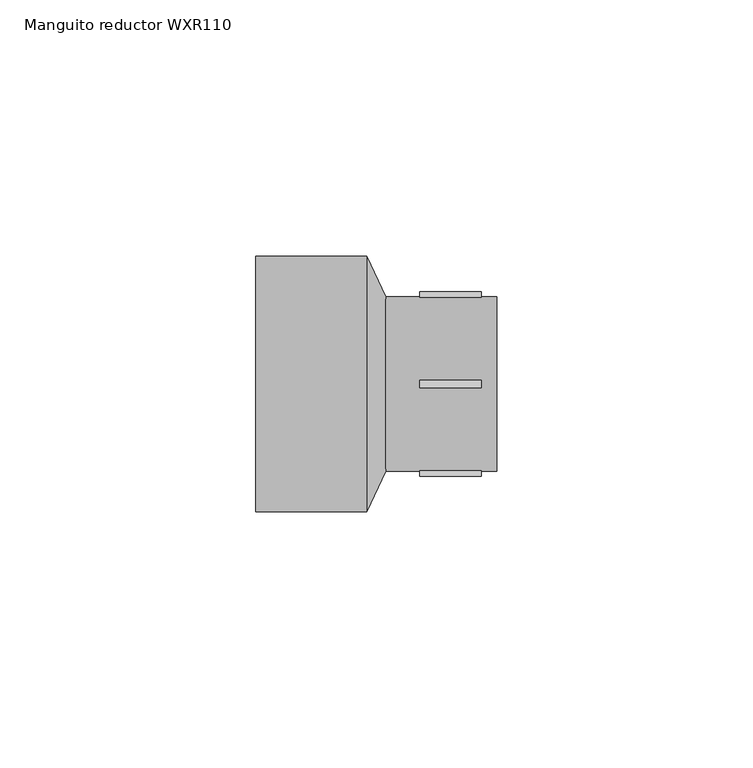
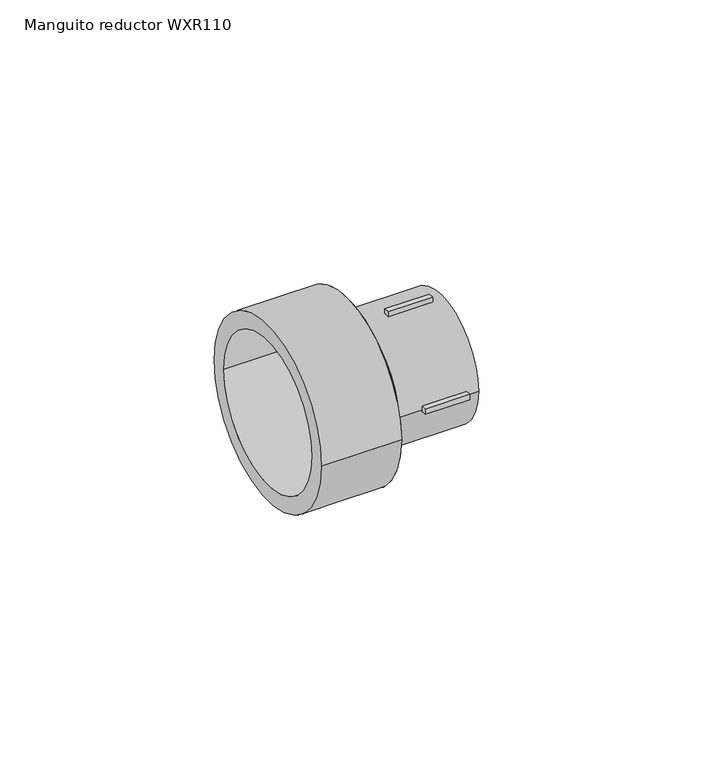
"""IFC4 building model written with IfcOpenShell, lengths in millimetres: pipe fitting geometry, EGB_VASEN_ PPR_Manguito reductor WXR110 : Manguito reductor WXR110."""

from ifc_helpers import new_model, si_unit, point, frame, origin, origin_2d, place, context, project, spatial, polyline, circle_curve, trimmed, segment, composite_curve, outline, extrude, source, transform, mapped, element, save
from ifc_brep_helpers import plane_surface, revolved_surface, advanced_brep


def manguito_reductor_wxr110_cb51794c(model_context):
    return source(origin(), model_context, "Body", "SolidModel", [
        extrude(outline(polyline([(8.5, -0.75), (8.5, 0.75), (20.5, 0.75), (20.5, -0.75), (8.5, -0.75)])), frame((0.0, 0.0, 16.0), z_axis=(0.0, 0.0, 1.0), x_axis=(1.0, 0.0, 0.0)), (0.0, 0.0, 1.0), 2.0),
        extrude(outline(polyline([(8.5, -0.75), (8.5, 0.75), (20.5, 0.75), (20.5, -0.75), (8.5, -0.75)])), frame((0.0, 0.0, -18.0), z_axis=(0.0, 0.0, 1.0), x_axis=(1.0, 0.0, 0.0)), (0.0, 0.0, 1.0), 2.0),
        extrude(outline(polyline([(8.5, 16.0), (8.5, 18.0), (20.5, 18.0), (20.5, 16.0), (8.5, 16.0)])), frame((0.0, 0.0, -0.75), z_axis=(0.0, 0.0, 1.0), x_axis=(1.0, 0.0, 0.0)), (0.0, 0.0, 1.0), 1.5),
        extrude(outline(polyline([(8.5, -18.0), (8.5, -16.0), (20.5, -16.0), (20.5, -18.0), (8.5, -18.0)])), frame((0.0, 0.0, -0.75), z_axis=(0.0, 0.0, 1.0), x_axis=(1.0, 0.0, 0.0)), (0.0, 0.0, 1.0), 1.5),
        extrude(outline(composite_curve([segment(trimmed(circle_curve(origin_2d(), 17.0), [point((-17.0, 0.0))], [point((17.0, 0.0))], False, "CARTESIAN"), True, "CONTINUOUS"), segment(trimmed(circle_curve(origin_2d(), 17.0), [point((17.0, 0.0))], [point((-17.0, 0.0))], False, "CARTESIAN"), True, "CONTINUOUS")], self_intersect=False), holes=[composite_curve([segment(trimmed(circle_curve(origin_2d(), 12.5), [point((-12.5, 0.0))], [point((12.5, 0.0))], True, "CARTESIAN"), True, "CONTINUOUS"), segment(trimmed(circle_curve(origin_2d(), 12.5), [point((12.5, 0.0))], [point((-12.5, 0.0))], True, "CARTESIAN"), True, "CONTINUOUS")], self_intersect=False)]), frame((1.88, 0.0, 0.0), z_axis=(1.0, 0.0, 0.0), x_axis=(0.0, 1.0, 0.0)), (0.0, 0.0, 1.0), 21.62),
        extrude(outline(composite_curve([segment(trimmed(circle_curve(origin_2d(), 25.0), [point((-25.0, 0.0))], [point((25.0, 0.0))], False, "CARTESIAN"), True, "CONTINUOUS"), segment(trimmed(circle_curve(origin_2d(), 25.0), [point((25.0, 0.0))], [point((-25.0, 0.0))], False, "CARTESIAN"), True, "CONTINUOUS")], self_intersect=False), holes=[composite_curve([segment(trimmed(circle_curve(origin_2d(), 20.5), [point((-20.5, 0.0))], [point((20.5, 0.0))], True, "CARTESIAN"), True, "CONTINUOUS"), segment(trimmed(circle_curve(origin_2d(), 20.5), [point((20.5, 0.0))], [point((-20.5, 0.0))], True, "CARTESIAN"), True, "CONTINUOUS")], self_intersect=False)]), frame((-23.5, 0.0, 0.0), z_axis=(1.0, 0.0, 0.0), x_axis=(0.0, 1.0, 0.0)), (0.0, 0.0, 1.0), 21.62),
        advanced_brep(
        [(1.88, -17.0, 0.0), (1.88, 17.0, 0.0), (-1.88, -25.0, 0.0), (-1.88, 25.0, 0.0)],
        [
            (0, 1, circle_curve(frame((1.88, 0.0, 0.0), z_axis=(1.0, 0.0, 0.0), x_axis=(0.0, -1.0, 0.0)), 17.0)),
            (1, 0, circle_curve(frame((1.88, 0.0, 0.0), z_axis=(1.0, 0.0, 0.0), x_axis=(0.0, 1.0, 0.0)), 17.0)),
            (2, 3, circle_curve(frame((-1.88, 0.0, 0.0), z_axis=(-1.0, 0.0, 0.0), x_axis=(0.0, 1.0, 0.0)), 25.0)),
            (3, 2, circle_curve(frame((-1.88, 0.0, 0.0), z_axis=(-1.0, 0.0, 0.0), x_axis=(0.0, -1.0, 0.0)), 25.0)),
            (3, 1),
            (0, 2),
        ],
        [
            plane_surface(frame((1.88, 0.0, 0.0), z_axis=(1.0, 0.0, 0.0), x_axis=(0.0, 0.0, -1.0))),
            plane_surface(frame((-1.88, 0.0, 0.0), z_axis=(-1.0, 0.0, 0.0), x_axis=(0.0, 0.0, -1.0))),
            revolved_surface(polyline([(1.88, -17.0, 0.0), (-1.8800000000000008, -25.0, 0.0)]), (9.87, 0.0, 0.0), (-1.0, 0.0, 0.0)),
            revolved_surface(polyline([(1.88, 17.0, 0.0), (-1.8800000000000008, 25.0, 0.0)]), (9.87, 0.0, 0.0), (-1.0, 0.0, 0.0)),
        ],
        [
            (0, [[1, 2]]),
            (1, [[3, 4]]),
            (2, [[-4, 5, -1, 6]]),
            (3, [[-3, -6, -2, -5]]),
        ],
    ),
    ])


if __name__ == "__main__":
    model = new_model("IFC4")
    model_context = context("Model", 3, world=origin())
    ifc_project = project(units=[si_unit("LENGTHUNIT", "METRE", prefix="MILLI")], contexts=[model_context])
    site = spatial("IfcSite", under=ifc_project)
    building = spatial("IfcBuilding", under=site)
    placement = place(None, origin())
    manguito_reductor_wxr110_shape = manguito_reductor_wxr110_cb51794c(model_context)
    element("IfcPipeFitting", 1, ObjectType="EGB_VASEN_ PPR_Manguito reductor WXR110 : Manguito reductor WXR110", at=placement, inside=building, context=model_context, shape_type="MappedRepresentation", body=[
        mapped(manguito_reductor_wxr110_shape, transform((0.0, 0.0, 0.0), x_axis=(1.0, 0.0, 0.0), y_axis=(0.0, 1.0, 0.0), z_axis=(0.0, 0.0, 1.0))),
    ])
    save(model, "model.ifc")
